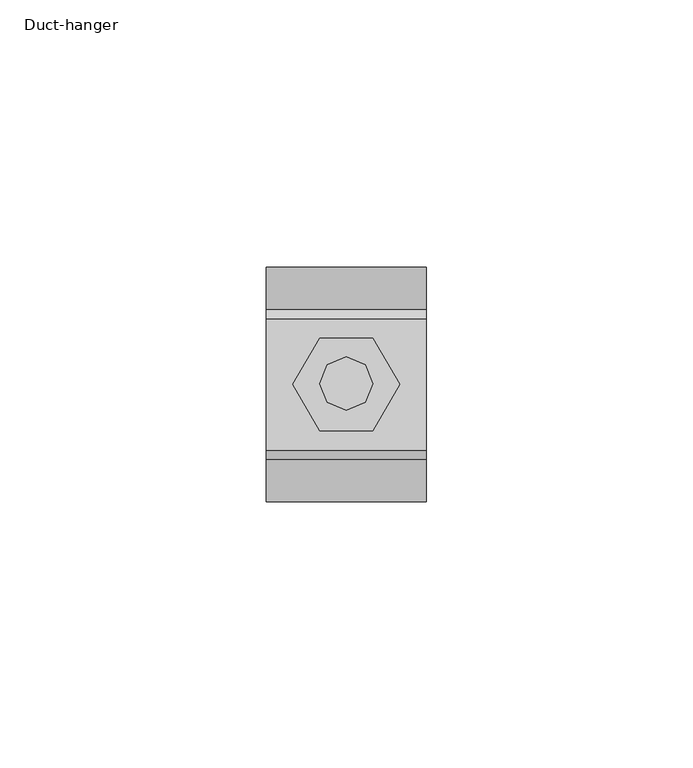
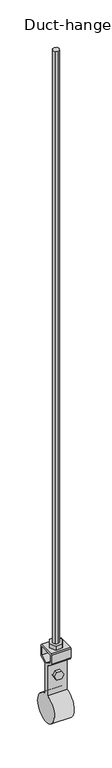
"""IFC4 building model written with IfcOpenShell, lengths in millimetres: proxy geometry, Duct-hanger : Φ44."""

from ifc_helpers import new_model, si_unit, point, frame, frame_2d, origin, place, context, project, spatial, polyline, circle_curve, trimmed, segment, composite_curve, outline, extrude, source, transform, mapped, element, save


def duct_hanger_cd86e1ba(model_context):
    return source(origin(), model_context, "Body", "SweptSolid", [
        extrude(outline(polyline([(3.5351563, 3.5351563), (5.0003052, 0.0), (3.5351563, -3.5351563), (0.0, -5.0), (-3.5354614, -3.5351563), (-5.0, 0.0), (-3.5354614, 3.5351563), (0.0, 5.0), (3.5351563, 3.5351563)])), frame((0.0, 0.0, -958.2797767), z_axis=(0.0, 0.0, 1.0), x_axis=(1.0, 0.0, 0.0)), (0.0, 0.0, 1.0), 958.2797767),
        extrude(outline(polyline([(5.0, 8.659668), (10.0, 0.0), (5.0, -8.659668), (-5.0, -8.659668), (-10.0, 0.0), (-5.0, 8.659668), (5.0, 8.659668)])), frame((0.0, 0.0, -958.2797767), z_axis=(0.0, 0.0, 1.0), x_axis=(1.0, 0.0, 0.0)), (0.0, 0.0, 1.0), 6.6101074),
        extrude(outline(polyline([(-995.2951065, -3.5931396), (-1001.5185562, -7.1862793), (-1007.7420059, -3.5931396), (-1007.7420059, 3.5931396), (-1001.5185562, 7.1862793), (-995.2951065, 3.5931396), (-995.2951065, -3.5931396)])), frame((0.0, -8.2446289, 0.0), z_axis=(0.0, 1.0, 0.0), x_axis=(0.0, 0.0, 1.0)), (0.0, 0.0, 1.0), 16.4892578),
        extrude(outline(composite_curve([segment(polyline([(14.0234375, -959.9484779), (14.0234375, -974.5981361), (12.8845215, -976.6644813), (4.6337891, -981.872306), (3.494873, -983.9392616), (3.494873, -1031.5185562)]), True, "CONTINUOUS"), segment(trimmed(circle_curve(frame_2d((0.0, -1053.2391883)), 22.0), [point((3.494873, -1031.5185562))], [point((-3.494873, -1031.5185562))], False, "CARTESIAN"), True, "CONTINUOUS"), segment(polyline([(-3.494873, -1031.5185562), (-3.494873, -983.9392616), (-4.6337891, -981.872306), (-12.8845215, -976.6644813), (-14.0234375, -974.5981361), (-14.0234375, -959.9484779), (-12.3547363, -958.2797767), (12.3547363, -958.2797767), (14.0234375, -959.9484779)]), True, "CONTINUOUS")], self_intersect=False), holes=[polyline([(0.0, -980.546153), (10.7531738, -973.7595131), (10.7531738, -961.5332557), (-10.7531738, -961.5332557), (-10.7531738, -973.7595131), (0.0, -980.546153)])]), frame((-15.0, 0.0, 0.0), z_axis=(1.0, 0.0, 0.0), x_axis=(0.0, 1.0, 0.0)), (0.0, 0.0, 1.0), 30.0),
    ])


if __name__ == "__main__":
    model = new_model("IFC4")
    model_context = context("Model", 3, world=origin())
    ifc_project = project(units=[si_unit("LENGTHUNIT", "METRE", prefix="MILLI")], contexts=[model_context])
    site = spatial("IfcSite", under=ifc_project)
    building = spatial("IfcBuilding", under=site)
    placement = place(None, origin())
    duct_hanger_shape = duct_hanger_cd86e1ba(model_context)
    element("IfcBuildingElementProxy", 1, Name="Duct-hanger : Φ44", ObjectType="Duct-hanger : Φ44", at=placement, inside=building, context=model_context, shape_type="MappedRepresentation", body=[
        mapped(duct_hanger_shape, transform((0.0, 0.0, 0.0), x_axis=(1.0, 0.0, 0.0), y_axis=(0.0, 1.0, 0.0), z_axis=(0.0, 0.0, 1.0))),
    ])
    save(model, "model.ifc")
